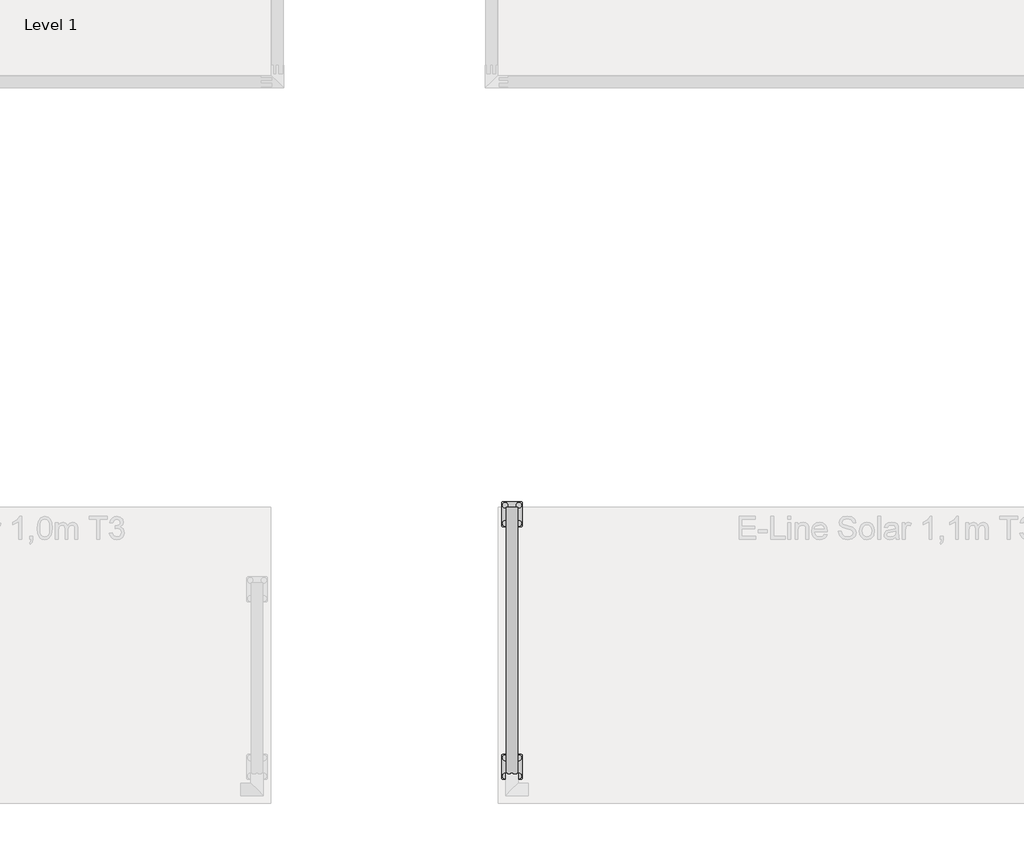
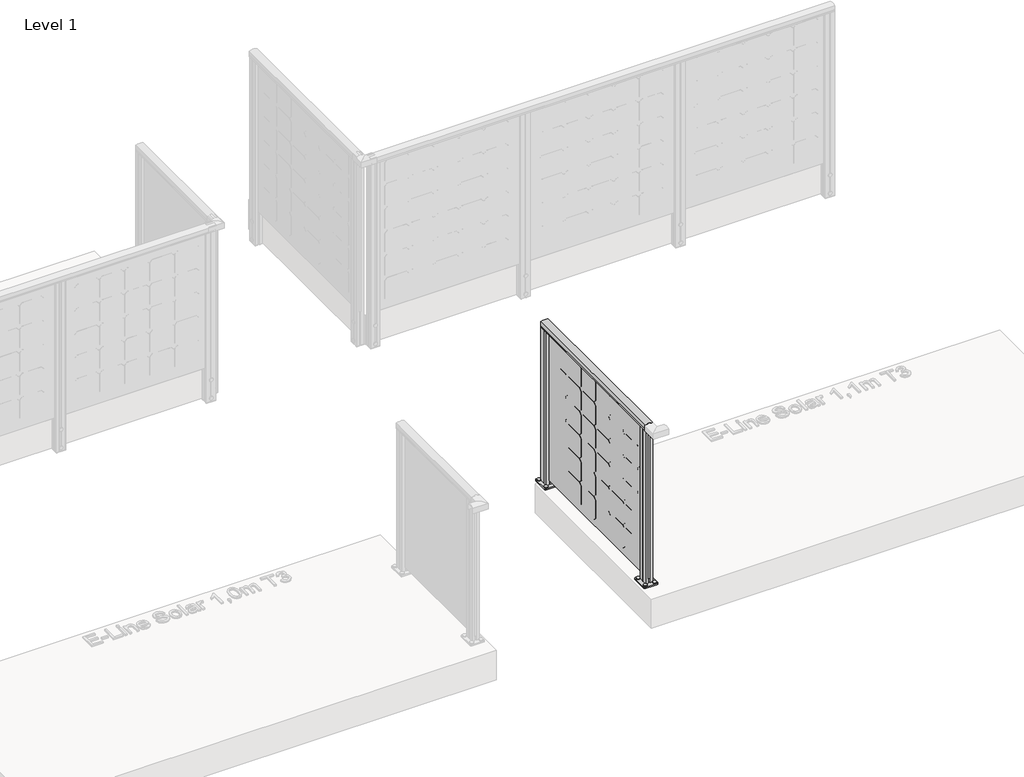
# One storey, part 24 of 66: 1 railing.
"""IFC4 building model written with IfcOpenShell, lengths in millimetres."""

from ifc_helpers import new_model, si_unit, point, frame, frame_2d, origin, origin_with_axes, place, context, project, spatial, polyline, circle_curve, trimmed, segment, composite_curve, outline, extrude, element, save

model = new_model("IFC4")

# Units and contexts
model_context = context("Model", 3, world=origin())
ifc_project = project(units=[si_unit("LENGTHUNIT", "METRE", prefix="MILLI")], contexts=[model_context])

# Site, building, storey
site = spatial("IfcSite", under=ifc_project)
building = spatial("IfcBuilding", under=site)
storey = spatial("IfcBuildingStorey", under=building, Name="Level 1", Elevation=0.0)

# Railing
placement = place(None, origin())
element("IfcRailing", 1, ObjectType="E-Line Solar 1,1m T3 6 columns of solar elements", at=placement, inside=storey, context=model_context, shape_type="SweptSolid", body=[
    extrude(outline(composite_curve([segment(trimmed(circle_curve(frame_2d((1042.6785502, 19357.2511266)), 57.3235687), [point((1094.1390059, 19382.5060869))], [point((1094.1342258, 19331.9864286))], False, "CARTESIAN"), True, "CONTINUOUS"), segment(polyline([(1094.1342258, 19331.9864286), (1067.0235023, 19331.9864286), (1066.4415706, 19332.5683604), (1065.8194895, 19331.9462793), (1057.2498847, 19331.9462793), (1057.2498847, 19333.7512322), (1080.4998829, 19333.7512322), (1080.4998829, 19380.7462783), (1057.2498847, 19380.7462783), (1057.2498847, 19382.5060869), (1065.9694895, 19382.5060869), (1066.5842725, 19381.8913039), (1067.1990555, 19382.5060869), (1094.1390059, 19382.5060869)]), True, "CONTINUOUS")], self_intersect=False)), frame((0.0, -2851.1184021, 0.0), z_axis=(0.0, 1.0, 0.0), x_axis=(0.0, 0.0, 1.0)), (0.0, 0.0, 1.0), 1170.0),
    extrude(outline(polyline([(19352.1463105, -1681.1184021), (19360.9063105, -1681.1184021), (19360.9063105, -2851.1184021), (19352.1463105, -2851.1184021), (19352.1463105, -1681.1184021)])), frame((0.0, 0.0, 40.0), z_axis=(0.0, 0.0, 1.0), x_axis=(1.0, 0.0, 0.0)), (0.0, 0.0, 1.0), 1040.0),
    extrude(outline(polyline([(0.0, 0.0), (16.036927, -16.036927), (16.036927, -139.963073), (0.0, -156.0), (-123.9261459, -156.0), (-139.963073, -139.963073), (-139.963073, -16.036927), (-123.9261459, 0.0), (0.0, 0.0)])), frame((19352.0263105, -1941.6184021, 1024.4156895), z_axis=(1.0, 5.7872079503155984e-12, 0.0), x_axis=(0.0, 0.0, 1.0)), (0.0, 0.0, 1.0), 1.0),
    extrude(outline(polyline([(0.0, 0.0), (16.036927, -16.036927), (16.036927, -139.963073), (0.0, -156.0), (-123.9261459, -156.0), (-139.963073, -139.963073), (-139.963073, -16.036927), (-123.9261459, 0.0), (0.0, 0.0)])), frame((19352.0263105, -2102.6184021, 1024.4156895), z_axis=(1.0, 5.7872079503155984e-12, 0.0), x_axis=(0.0, 0.0, 1.0)), (0.0, 0.0, 1.0), 1.0),
    extrude(outline(polyline([(0.0, 0.0), (16.036927, -16.036927), (16.036927, -139.963073), (0.0, -156.0), (-123.9261459, -156.0), (-139.963073, -139.963073), (-139.963073, -16.036927), (-123.9261459, 0.0), (0.0, 0.0)])), frame((19352.0263105, -2263.6184021, 1024.4156895), z_axis=(1.0, 5.7872079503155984e-12, 0.0), x_axis=(0.0, 0.0, 1.0)), (0.0, 0.0, 1.0), 1.0),
    extrude(outline(polyline([(0.0, 0.0), (16.036927, -16.036927), (16.036927, -139.963073), (0.0, -156.0), (-123.9261459, -156.0), (-139.963073, -139.963073), (-139.963073, -16.036927), (-123.9261459, 0.0), (0.0, 0.0)])), frame((19352.0263105, -2746.6184021, 1024.4156895), z_axis=(1.0, 5.7872079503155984e-12, 0.0), x_axis=(0.0, 0.0, 1.0)), (0.0, 0.0, 1.0), 1.0),
    extrude(outline(polyline([(0.0, 0.0), (16.036927, -16.036927), (16.036927, -139.963073), (0.0, -156.0), (-123.9261459, -156.0), (-139.963073, -139.963073), (-139.963073, -16.036927), (-123.9261459, 0.0), (0.0, 0.0)])), frame((19352.0263105, -2585.6184021, 1024.4156895), z_axis=(1.0, 5.7872079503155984e-12, 0.0), x_axis=(0.0, 0.0, 1.0)), (0.0, 0.0, 1.0), 1.0),
    extrude(outline(polyline([(0.0, 0.0), (16.036927, -16.036927), (16.036927, -139.963073), (0.0, -156.0), (-123.9261459, -156.0), (-139.963073, -139.963073), (-139.963073, -16.036927), (-123.9261459, 0.0), (0.0, 0.0)])), frame((19352.0263105, -2424.6184021, 1024.4156895), z_axis=(1.0, 5.7872079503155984e-12, 0.0), x_axis=(0.0, 0.0, 1.0)), (0.0, 0.0, 1.0), 1.0),
    extrude(outline(polyline([(0.0, 0.0), (16.036927, -16.036927), (16.036927, -139.963073), (0.0, -156.0), (-123.9261459, -156.0), (-139.963073, -139.963073), (-139.963073, -16.036927), (-123.9261459, 0.0), (0.0, 0.0)])), frame((19352.0263105, -1941.6184021, 863.4156895), z_axis=(1.0, 5.7872079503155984e-12, 0.0), x_axis=(0.0, 0.0, 1.0)), (0.0, 0.0, 1.0), 1.0),
    extrude(outline(polyline([(0.0, 0.0), (16.036927, -16.036927), (16.036927, -139.963073), (0.0, -156.0), (-123.9261459, -156.0), (-139.963073, -139.963073), (-139.963073, -16.036927), (-123.9261459, 0.0), (0.0, 0.0)])), frame((19352.0263105, -1941.6184021, 702.4156895), z_axis=(1.0, 5.7872079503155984e-12, 0.0), x_axis=(0.0, 0.0, 1.0)), (0.0, 0.0, 1.0), 1.0),
    extrude(outline(polyline([(0.0, 0.0), (16.036927, -16.036927), (16.036927, -139.963073), (0.0, -156.0), (-123.9261459, -156.0), (-139.963073, -139.963073), (-139.963073, -16.036927), (-123.9261459, 0.0), (0.0, 0.0)])), frame((19352.0263105, -1941.6184021, 541.4156895), z_axis=(1.0, 5.7872079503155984e-12, 0.0), x_axis=(0.0, 0.0, 1.0)), (0.0, 0.0, 1.0), 1.0),
    extrude(outline(polyline([(0.0, 0.0), (16.036927, -16.036927), (16.036927, -139.963073), (0.0, -156.0), (-123.9261459, -156.0), (-139.963073, -139.963073), (-139.963073, -16.036927), (-123.9261459, 0.0), (0.0, 0.0)])), frame((19352.0263105, -1941.6184021, 380.4156895), z_axis=(1.0, 5.7872079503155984e-12, 0.0), x_axis=(0.0, 0.0, 1.0)), (0.0, 0.0, 1.0), 1.0),
    extrude(outline(polyline([(0.0, 0.0), (16.036927, -16.036927), (16.036927, -139.963073), (0.0, -156.0), (-123.9261459, -156.0), (-139.963073, -139.963073), (-139.963073, -16.036927), (-123.9261459, 0.0), (0.0, 0.0)])), frame((19352.0263105, -1941.6184021, 219.4156895), z_axis=(1.0, 5.7872079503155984e-12, 0.0), x_axis=(0.0, 0.0, 1.0)), (0.0, 0.0, 1.0), 1.0),
    extrude(outline(polyline([(0.0, 0.0), (16.036927, -16.036927), (16.036927, -139.963073), (0.0, -156.0), (-123.9261459, -156.0), (-139.963073, -139.963073), (-139.963073, -16.036927), (-123.9261459, 0.0), (0.0, 0.0)])), frame((19352.0263105, -2102.6184021, 863.4156895), z_axis=(1.0, 5.7872079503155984e-12, 0.0), x_axis=(0.0, 0.0, 1.0)), (0.0, 0.0, 1.0), 1.0),
    extrude(outline(polyline([(0.0, 0.0), (16.036927, -16.036927), (16.036927, -139.963073), (0.0, -156.0), (-123.9261459, -156.0), (-139.963073, -139.963073), (-139.963073, -16.036927), (-123.9261459, 0.0), (0.0, 0.0)])), frame((19352.0263105, -2102.6184021, 702.4156895), z_axis=(1.0, 5.7872079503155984e-12, 0.0), x_axis=(0.0, 0.0, 1.0)), (0.0, 0.0, 1.0), 1.0),
    extrude(outline(polyline([(0.0, 0.0), (16.036927, -16.036927), (16.036927, -139.963073), (0.0, -156.0), (-123.9261459, -156.0), (-139.963073, -139.963073), (-139.963073, -16.036927), (-123.9261459, 0.0), (0.0, 0.0)])), frame((19352.0263105, -2102.6184021, 541.4156895), z_axis=(1.0, 5.7872079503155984e-12, 0.0), x_axis=(0.0, 0.0, 1.0)), (0.0, 0.0, 1.0), 1.0),
    extrude(outline(polyline([(0.0, 0.0), (16.036927, -16.036927), (16.036927, -139.963073), (0.0, -156.0), (-123.9261459, -156.0), (-139.963073, -139.963073), (-139.963073, -16.036927), (-123.9261459, 0.0), (0.0, 0.0)])), frame((19352.0263105, -2102.6184021, 380.4156895), z_axis=(1.0, 5.7872079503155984e-12, 0.0), x_axis=(0.0, 0.0, 1.0)), (0.0, 0.0, 1.0), 1.0),
    extrude(outline(polyline([(0.0, 0.0), (16.036927, -16.036927), (16.036927, -139.963073), (0.0, -156.0), (-123.9261459, -156.0), (-139.963073, -139.963073), (-139.963073, -16.036927), (-123.9261459, 0.0), (0.0, 0.0)])), frame((19352.0263105, -2102.6184021, 219.4156895), z_axis=(1.0, 5.7872079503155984e-12, 0.0), x_axis=(0.0, 0.0, 1.0)), (0.0, 0.0, 1.0), 1.0),
    extrude(outline(polyline([(0.0, 0.0), (16.036927, -16.036927), (16.036927, -139.963073), (0.0, -156.0), (-123.9261459, -156.0), (-139.963073, -139.963073), (-139.963073, -16.036927), (-123.9261459, 0.0), (0.0, 0.0)])), frame((19352.0263105, -2263.6184021, 863.4156895), z_axis=(1.0, 5.7872079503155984e-12, 0.0), x_axis=(0.0, 0.0, 1.0)), (0.0, 0.0, 1.0), 1.0),
    extrude(outline(polyline([(0.0, 0.0), (16.036927, -16.036927), (16.036927, -139.963073), (0.0, -156.0), (-123.9261459, -156.0), (-139.963073, -139.963073), (-139.963073, -16.036927), (-123.9261459, 0.0), (0.0, 0.0)])), frame((19352.0263105, -2263.6184021, 702.4156895), z_axis=(1.0, 5.7872079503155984e-12, 0.0), x_axis=(0.0, 0.0, 1.0)), (0.0, 0.0, 1.0), 1.0),
    extrude(outline(polyline([(0.0, 0.0), (16.036927, -16.036927), (16.036927, -139.963073), (0.0, -156.0), (-123.9261459, -156.0), (-139.963073, -139.963073), (-139.963073, -16.036927), (-123.9261459, 0.0), (0.0, 0.0)])), frame((19352.0263105, -2263.6184021, 541.4156895), z_axis=(1.0, 5.7872079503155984e-12, 0.0), x_axis=(0.0, 0.0, 1.0)), (0.0, 0.0, 1.0), 1.0),
    extrude(outline(polyline([(0.0, 0.0), (16.036927, -16.036927), (16.036927, -139.963073), (0.0, -156.0), (-123.9261459, -156.0), (-139.963073, -139.963073), (-139.963073, -16.036927), (-123.9261459, 0.0), (0.0, 0.0)])), frame((19352.0263105, -2263.6184021, 380.4156895), z_axis=(1.0, 5.7872079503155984e-12, 0.0), x_axis=(0.0, 0.0, 1.0)), (0.0, 0.0, 1.0), 1.0),
    extrude(outline(polyline([(0.0, 0.0), (16.036927, -16.036927), (16.036927, -139.963073), (0.0, -156.0), (-123.9261459, -156.0), (-139.963073, -139.963073), (-139.963073, -16.036927), (-123.9261459, 0.0), (0.0, 0.0)])), frame((19352.0263105, -2263.6184021, 219.4156895), z_axis=(1.0, 5.7872079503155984e-12, 0.0), x_axis=(0.0, 0.0, 1.0)), (0.0, 0.0, 1.0), 1.0),
    extrude(outline(polyline([(0.0, 0.0), (16.036927, -16.036927), (16.036927, -139.963073), (0.0, -156.0), (-123.9261459, -156.0), (-139.963073, -139.963073), (-139.963073, -16.036927), (-123.9261459, 0.0), (0.0, 0.0)])), frame((19352.0263105, -2746.6184021, 863.4156895), z_axis=(1.0, 5.7872079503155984e-12, 0.0), x_axis=(0.0, 0.0, 1.0)), (0.0, 0.0, 1.0), 1.0),
    extrude(outline(polyline([(0.0, 0.0), (16.036927, -16.036927), (16.036927, -139.963073), (0.0, -156.0), (-123.9261459, -156.0), (-139.963073, -139.963073), (-139.963073, -16.036927), (-123.9261459, 0.0), (0.0, 0.0)])), frame((19352.0263105, -2746.6184021, 702.4156895), z_axis=(1.0, 5.7872079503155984e-12, 0.0), x_axis=(0.0, 0.0, 1.0)), (0.0, 0.0, 1.0), 1.0),
    extrude(outline(polyline([(0.0, 0.0), (16.036927, -16.036927), (16.036927, -139.963073), (0.0, -156.0), (-123.9261459, -156.0), (-139.963073, -139.963073), (-139.963073, -16.036927), (-123.9261459, 0.0), (0.0, 0.0)])), frame((19352.0263105, -2746.6184021, 541.4156895), z_axis=(1.0, 5.7872079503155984e-12, 0.0), x_axis=(0.0, 0.0, 1.0)), (0.0, 0.0, 1.0), 1.0),
    extrude(outline(polyline([(0.0, 0.0), (16.036927, -16.036927), (16.036927, -139.963073), (0.0, -156.0), (-123.9261459, -156.0), (-139.963073, -139.963073), (-139.963073, -16.036927), (-123.9261459, 0.0), (0.0, 0.0)])), frame((19352.0263105, -2746.6184021, 380.4156895), z_axis=(1.0, 5.7872079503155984e-12, 0.0), x_axis=(0.0, 0.0, 1.0)), (0.0, 0.0, 1.0), 1.0),
    extrude(outline(polyline([(0.0, 0.0), (16.036927, -16.036927), (16.036927, -139.963073), (0.0, -156.0), (-123.9261459, -156.0), (-139.963073, -139.963073), (-139.963073, -16.036927), (-123.9261459, 0.0), (0.0, 0.0)])), frame((19352.0263105, -2746.6184021, 219.4156895), z_axis=(1.0, 5.7872079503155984e-12, 0.0), x_axis=(0.0, 0.0, 1.0)), (0.0, 0.0, 1.0), 1.0),
    extrude(outline(polyline([(0.0, 0.0), (16.036927, -16.036927), (16.036927, -139.963073), (0.0, -156.0), (-123.9261459, -156.0), (-139.963073, -139.963073), (-139.963073, -16.036927), (-123.9261459, 0.0), (0.0, 0.0)])), frame((19352.0263105, -2585.6184021, 863.4156895), z_axis=(1.0, 5.7872079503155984e-12, 0.0), x_axis=(0.0, 0.0, 1.0)), (0.0, 0.0, 1.0), 1.0),
    extrude(outline(polyline([(0.0, 0.0), (16.036927, -16.036927), (16.036927, -139.963073), (0.0, -156.0), (-123.9261459, -156.0), (-139.963073, -139.963073), (-139.963073, -16.036927), (-123.9261459, 0.0), (0.0, 0.0)])), frame((19352.0263105, -2585.6184021, 702.4156895), z_axis=(1.0, 5.7872079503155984e-12, 0.0), x_axis=(0.0, 0.0, 1.0)), (0.0, 0.0, 1.0), 1.0),
    extrude(outline(polyline([(0.0, 0.0), (16.036927, -16.036927), (16.036927, -139.963073), (0.0, -156.0), (-123.9261459, -156.0), (-139.963073, -139.963073), (-139.963073, -16.036927), (-123.9261459, 0.0), (0.0, 0.0)])), frame((19352.0263105, -2585.6184021, 541.4156895), z_axis=(1.0, 5.7872079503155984e-12, 0.0), x_axis=(0.0, 0.0, 1.0)), (0.0, 0.0, 1.0), 1.0),
    extrude(outline(polyline([(0.0, 0.0), (16.036927, -16.036927), (16.036927, -139.963073), (0.0, -156.0), (-123.9261459, -156.0), (-139.963073, -139.963073), (-139.963073, -16.036927), (-123.9261459, 0.0), (0.0, 0.0)])), frame((19352.0263105, -2585.6184021, 380.4156895), z_axis=(1.0, 5.7872079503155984e-12, 0.0), x_axis=(0.0, 0.0, 1.0)), (0.0, 0.0, 1.0), 1.0),
    extrude(outline(polyline([(0.0, 0.0), (16.036927, -16.036927), (16.036927, -139.963073), (0.0, -156.0), (-123.9261459, -156.0), (-139.963073, -139.963073), (-139.963073, -16.036927), (-123.9261459, 0.0), (0.0, 0.0)])), frame((19352.0263105, -2585.6184021, 219.4156895), z_axis=(1.0, 5.7872079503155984e-12, 0.0), x_axis=(0.0, 0.0, 1.0)), (0.0, 0.0, 1.0), 1.0),
    extrude(outline(polyline([(0.0, 0.0), (16.036927, -16.036927), (16.036927, -139.963073), (0.0, -156.0), (-123.9261459, -156.0), (-139.963073, -139.963073), (-139.963073, -16.036927), (-123.9261459, 0.0), (0.0, 0.0)])), frame((19352.0263105, -2424.6184021, 863.4156895), z_axis=(1.0, 5.7872079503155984e-12, 0.0), x_axis=(0.0, 0.0, 1.0)), (0.0, 0.0, 1.0), 1.0),
    extrude(outline(polyline([(0.0, 0.0), (16.036927, -16.036927), (16.036927, -139.963073), (0.0, -156.0), (-123.9261459, -156.0), (-139.963073, -139.963073), (-139.963073, -16.036927), (-123.9261459, 0.0), (0.0, 0.0)])), frame((19352.0263105, -2424.6184021, 702.4156895), z_axis=(1.0, 5.7872079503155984e-12, 0.0), x_axis=(0.0, 0.0, 1.0)), (0.0, 0.0, 1.0), 1.0),
    extrude(outline(polyline([(0.0, 0.0), (16.036927, -16.036927), (16.036927, -139.963073), (0.0, -156.0), (-123.9261459, -156.0), (-139.963073, -139.963073), (-139.963073, -16.036927), (-123.9261459, 0.0), (0.0, 0.0)])), frame((19352.0263105, -2424.6184021, 541.4156895), z_axis=(1.0, 5.7872079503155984e-12, 0.0), x_axis=(0.0, 0.0, 1.0)), (0.0, 0.0, 1.0), 1.0),
    extrude(outline(polyline([(0.0, 0.0), (16.036927, -16.036927), (16.036927, -139.963073), (0.0, -156.0), (-123.9261459, -156.0), (-139.963073, -139.963073), (-139.963073, -16.036927), (-123.9261459, 0.0), (0.0, 0.0)])), frame((19352.0263105, -2424.6184021, 380.4156895), z_axis=(1.0, 5.7872079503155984e-12, 0.0), x_axis=(0.0, 0.0, 1.0)), (0.0, 0.0, 1.0), 1.0),
    extrude(outline(polyline([(0.0, 0.0), (16.036927, -16.036927), (16.036927, -139.963073), (0.0, -156.0), (-123.9261459, -156.0), (-139.963073, -139.963073), (-139.963073, -16.036927), (-123.9261459, 0.0), (0.0, 0.0)])), frame((19352.0263105, -2424.6184021, 219.4156895), z_axis=(1.0, 5.7872079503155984e-12, 0.0), x_axis=(0.0, 0.0, 1.0)), (0.0, 0.0, 1.0), 1.0),
    extrude(outline(composite_curve([segment(trimmed(circle_curve(frame_2d((19326.5263105, -2781.1184021)), 11.9621755), [point((19314.564135, -2781.1184021))], [point((19338.488486, -2781.1184021))], False, "CARTESIAN"), True, "CONTINUOUS"), segment(trimmed(circle_curve(frame_2d((19326.5263105, -2781.1184021)), 11.9621755), [point((19338.488486, -2781.1184021))], [point((19314.564135, -2781.1184021))], False, "CARTESIAN"), True, "CONTINUOUS")], self_intersect=False)), frame((0.0, 0.0, 10.0), z_axis=(0.0, 0.0, 1.0), x_axis=(1.0, 0.0, 0.0)), (0.0, 0.0, 1.0), 5.0),
    extrude(outline(composite_curve([segment(trimmed(circle_curve(frame_2d((19386.5263105, -2781.1184021)), 11.9621755), [point((19374.564135, -2781.1184021))], [point((19398.488486, -2781.1184021))], False, "CARTESIAN"), True, "CONTINUOUS"), segment(trimmed(circle_curve(frame_2d((19386.5263105, -2781.1184021)), 11.9621755), [point((19398.488486, -2781.1184021))], [point((19374.564135, -2781.1184021))], False, "CARTESIAN"), True, "CONTINUOUS")], self_intersect=False)), frame((0.0, 0.0, 10.0), z_axis=(0.0, 0.0, 1.0), x_axis=(1.0, 0.0, 0.0)), (0.0, 0.0, 1.0), 5.0),
    extrude(outline(composite_curve([segment(trimmed(circle_curve(frame_2d((19326.5263105, -2861.1184021)), 11.9621755), [point((19314.564135, -2861.1184021))], [point((19338.488486, -2861.1184021))], False, "CARTESIAN"), True, "CONTINUOUS"), segment(trimmed(circle_curve(frame_2d((19326.5263105, -2861.1184021)), 11.9621755), [point((19338.488486, -2861.1184021))], [point((19314.564135, -2861.1184021))], False, "CARTESIAN"), True, "CONTINUOUS")], self_intersect=False)), frame((0.0, 0.0, 10.0), z_axis=(0.0, 0.0, 1.0), x_axis=(1.0, 0.0, 0.0)), (0.0, 0.0, 1.0), 5.0),
    extrude(outline(composite_curve([segment(trimmed(circle_curve(frame_2d((19386.5263105, -2861.1184021)), 11.9621755), [point((19374.564135, -2861.1184021))], [point((19398.488486, -2861.1184021))], False, "CARTESIAN"), True, "CONTINUOUS"), segment(trimmed(circle_curve(frame_2d((19386.5263105, -2861.1184021)), 11.9621755), [point((19398.488486, -2861.1184021))], [point((19374.564135, -2861.1184021))], False, "CARTESIAN"), True, "CONTINUOUS")], self_intersect=False)), frame((0.0, 0.0, 10.0), z_axis=(0.0, 0.0, 1.0), x_axis=(1.0, 0.0, 0.0)), (0.0, 0.0, 1.0), 5.0),
    extrude(outline(composite_curve([segment(trimmed(circle_curve(frame_2d((19396.5263105, -2771.1184021)), 5.0), [point((19396.5263105, -2766.1184021))], [point((19401.5263105, -2771.1184021))], False, "CARTESIAN"), True, "CONTINUOUS"), segment(polyline([(19401.5263105, -2771.1184021), (19401.5263105, -2871.1184021)]), True, "CONTINUOUS"), segment(trimmed(circle_curve(frame_2d((19396.5263105, -2871.1184021)), 5.0), [point((19401.5263105, -2871.1184021))], [point((19396.5263105, -2876.1184021))], False, "CARTESIAN"), True, "CONTINUOUS"), segment(polyline([(19396.5263105, -2876.1184021), (19316.5263105, -2876.1184021)]), True, "CONTINUOUS"), segment(trimmed(circle_curve(frame_2d((19316.5263105, -2871.1184021)), 5.0), [point((19316.5263105, -2876.1184021))], [point((19311.5263105, -2871.1184021))], False, "CARTESIAN"), True, "CONTINUOUS"), segment(polyline([(19311.5263105, -2871.1184021), (19311.5263105, -2771.1184021)]), True, "CONTINUOUS"), segment(trimmed(circle_curve(frame_2d((19316.5263105, -2771.1184021)), 5.0), [point((19311.5263105, -2771.1184021))], [point((19316.5263105, -2766.1184021))], False, "CARTESIAN"), True, "CONTINUOUS"), segment(polyline([(19316.5263105, -2766.1184021), (19396.5263105, -2766.1184021)]), True, "CONTINUOUS")], self_intersect=False), holes=[composite_curve([segment(trimmed(circle_curve(frame_2d((19386.5263105, -2781.1184021)), 6.25), [point((19380.2763105, -2781.1184021))], [point((19392.7763105, -2781.1184021))], True, "CARTESIAN"), True, "CONTINUOUS"), segment(trimmed(circle_curve(frame_2d((19386.5263105, -2781.1184021)), 6.25), [point((19392.7763105, -2781.1184021))], [point((19380.2763105, -2781.1184021))], True, "CARTESIAN"), True, "CONTINUOUS")], self_intersect=False), composite_curve([segment(trimmed(circle_curve(frame_2d((19326.5263105, -2781.1184021)), 6.25), [point((19320.2763105, -2781.1184021))], [point((19332.7763105, -2781.1184021))], True, "CARTESIAN"), True, "CONTINUOUS"), segment(trimmed(circle_curve(frame_2d((19326.5263105, -2781.1184021)), 6.25), [point((19332.7763105, -2781.1184021))], [point((19320.2763105, -2781.1184021))], True, "CARTESIAN"), True, "CONTINUOUS")], self_intersect=False), composite_curve([segment(trimmed(circle_curve(frame_2d((19326.5263105, -2861.1184021)), 6.25), [point((19320.2763105, -2861.1184021))], [point((19332.7763105, -2861.1184021))], True, "CARTESIAN"), True, "CONTINUOUS"), segment(trimmed(circle_curve(frame_2d((19326.5263105, -2861.1184021)), 6.25), [point((19332.7763105, -2861.1184021))], [point((19320.2763105, -2861.1184021))], True, "CARTESIAN"), True, "CONTINUOUS")], self_intersect=False), composite_curve([segment(trimmed(circle_curve(frame_2d((19386.5263105, -2861.1184021)), 6.25), [point((19380.2763105, -2861.1184021))], [point((19392.7763105, -2861.1184021))], True, "CARTESIAN"), True, "CONTINUOUS"), segment(trimmed(circle_curve(frame_2d((19386.5263105, -2861.1184021)), 6.25), [point((19392.7763105, -2861.1184021))], [point((19380.2763105, -2861.1184021))], True, "CARTESIAN"), True, "CONTINUOUS")], self_intersect=False)]), origin_with_axes(), (0.0, 0.0, 1.0), 10.0),
    extrude(outline(polyline([(19352.1804485, -2851.116809), (19334.0354487, -2851.1194812), (19334.0311828, -2822.1524942), (19335.0593241, -2821.12405), (19334.0709345, -2820.1359515), (19334.0666613, -2791.119476), (19352.1716124, -2791.1168097), (19352.1741896, -2808.6168095), (19360.9341895, -2808.6155194), (19360.9316123, -2791.1155196), (19379.0266121, -2791.1128548), (19379.030878, -2820.0798417), (19378.1125457, -2821.1177096), (19378.9909678, -2821.995873), (19378.9952559, -2851.11286), (19360.9404484, -2851.1155189), (19360.9378712, -2833.6155191), (19352.1778713, -2833.6168092), (19352.1804485, -2851.116809)]), holes=[polyline([(19377.0323262, -2812.3191871), (19336.0297347, -2812.3191871), (19336.0297347, -2829.9131488), (19377.0323262, -2829.9131488), (19377.0323262, -2812.3191871)]), polyline([(19350.17444, -2793.1191873), (19336.0269071, -2793.1191873), (19336.0269071, -2810.317104), (19350.17444, -2810.317104), (19350.17444, -2793.1191873)]), polyline([(19377.0323262, -2793.115225), (19362.9319068, -2793.115225), (19362.9319068, -2810.3131487), (19377.0323262, -2810.3131487), (19377.0323262, -2793.115225)]), polyline([(19350.180154, -2831.9191868), (19336.0326211, -2831.9191868), (19336.0326211, -2849.1171035), (19350.180154, -2849.1171035), (19350.180154, -2831.9191868)]), polyline([(19377.0851537, -2831.9152246), (19362.9376209, -2831.9152246), (19362.9376209, -2849.1131413), (19377.0851537, -2849.1131413), (19377.0851537, -2831.9152246)])]), frame((0.0, 0.0, 10.0), z_axis=(0.0, 0.0, 1.0), x_axis=(1.0, 0.0, 0.0)), (0.0, 0.0, 1.0), 1071.0),
    extrude(outline(composite_curve([segment(trimmed(circle_curve(frame_2d((19326.5263105, -1671.1184021)), 11.9621755), [point((19314.564135, -1671.1184021))], [point((19338.488486, -1671.1184021))], False, "CARTESIAN"), True, "CONTINUOUS"), segment(trimmed(circle_curve(frame_2d((19326.5263105, -1671.1184021)), 11.9621755), [point((19338.488486, -1671.1184021))], [point((19314.564135, -1671.1184021))], False, "CARTESIAN"), True, "CONTINUOUS")], self_intersect=False)), frame((0.0, 0.0, 10.0), z_axis=(0.0, 0.0, 1.0), x_axis=(1.0, 0.0, 0.0)), (0.0, 0.0, 1.0), 5.0),
    extrude(outline(composite_curve([segment(trimmed(circle_curve(frame_2d((19386.5263105, -1671.1184021)), 11.9621755), [point((19374.564135, -1671.1184021))], [point((19398.488486, -1671.1184021))], False, "CARTESIAN"), True, "CONTINUOUS"), segment(trimmed(circle_curve(frame_2d((19386.5263105, -1671.1184021)), 11.9621755), [point((19398.488486, -1671.1184021))], [point((19374.564135, -1671.1184021))], False, "CARTESIAN"), True, "CONTINUOUS")], self_intersect=False)), frame((0.0, 0.0, 10.0), z_axis=(0.0, 0.0, 1.0), x_axis=(1.0, 0.0, 0.0)), (0.0, 0.0, 1.0), 5.0),
    extrude(outline(composite_curve([segment(trimmed(circle_curve(frame_2d((19326.5263105, -1751.1184021)), 11.9621755), [point((19314.564135, -1751.1184021))], [point((19338.488486, -1751.1184021))], False, "CARTESIAN"), True, "CONTINUOUS"), segment(trimmed(circle_curve(frame_2d((19326.5263105, -1751.1184021)), 11.9621755), [point((19338.488486, -1751.1184021))], [point((19314.564135, -1751.1184021))], False, "CARTESIAN"), True, "CONTINUOUS")], self_intersect=False)), frame((0.0, 0.0, 10.0), z_axis=(0.0, 0.0, 1.0), x_axis=(1.0, 0.0, 0.0)), (0.0, 0.0, 1.0), 5.0),
    extrude(outline(composite_curve([segment(trimmed(circle_curve(frame_2d((19386.5263105, -1751.1184021)), 11.9621755), [point((19374.564135, -1751.1184021))], [point((19398.488486, -1751.1184021))], False, "CARTESIAN"), True, "CONTINUOUS"), segment(trimmed(circle_curve(frame_2d((19386.5263105, -1751.1184021)), 11.9621755), [point((19398.488486, -1751.1184021))], [point((19374.564135, -1751.1184021))], False, "CARTESIAN"), True, "CONTINUOUS")], self_intersect=False)), frame((0.0, 0.0, 10.0), z_axis=(0.0, 0.0, 1.0), x_axis=(1.0, 0.0, 0.0)), (0.0, 0.0, 1.0), 5.0),
    extrude(outline(composite_curve([segment(trimmed(circle_curve(frame_2d((19396.5263105, -1661.1184021)), 5.0), [point((19396.5263105, -1656.1184021))], [point((19401.5263105, -1661.1184021))], False, "CARTESIAN"), True, "CONTINUOUS"), segment(polyline([(19401.5263105, -1661.1184021), (19401.5263105, -1761.1184021)]), True, "CONTINUOUS"), segment(trimmed(circle_curve(frame_2d((19396.5263105, -1761.1184021)), 5.0), [point((19401.5263105, -1761.1184021))], [point((19396.5263105, -1766.1184021))], False, "CARTESIAN"), True, "CONTINUOUS"), segment(polyline([(19396.5263105, -1766.1184021), (19316.5263105, -1766.1184021)]), True, "CONTINUOUS"), segment(trimmed(circle_curve(frame_2d((19316.5263105, -1761.1184021)), 5.0), [point((19316.5263105, -1766.1184021))], [point((19311.5263105, -1761.1184021))], False, "CARTESIAN"), True, "CONTINUOUS"), segment(polyline([(19311.5263105, -1761.1184021), (19311.5263105, -1661.1184021)]), True, "CONTINUOUS"), segment(trimmed(circle_curve(frame_2d((19316.5263105, -1661.1184021)), 5.0), [point((19311.5263105, -1661.1184021))], [point((19316.5263105, -1656.1184021))], False, "CARTESIAN"), True, "CONTINUOUS"), segment(polyline([(19316.5263105, -1656.1184021), (19396.5263105, -1656.1184021)]), True, "CONTINUOUS")], self_intersect=False), holes=[composite_curve([segment(trimmed(circle_curve(frame_2d((19386.5263105, -1671.1184021)), 6.25), [point((19380.2763105, -1671.1184021))], [point((19392.7763105, -1671.1184021))], True, "CARTESIAN"), True, "CONTINUOUS"), segment(trimmed(circle_curve(frame_2d((19386.5263105, -1671.1184021)), 6.25), [point((19392.7763105, -1671.1184021))], [point((19380.2763105, -1671.1184021))], True, "CARTESIAN"), True, "CONTINUOUS")], self_intersect=False), composite_curve([segment(trimmed(circle_curve(frame_2d((19326.5263105, -1671.1184021)), 6.25), [point((19320.2763105, -1671.1184021))], [point((19332.7763105, -1671.1184021))], True, "CARTESIAN"), True, "CONTINUOUS"), segment(trimmed(circle_curve(frame_2d((19326.5263105, -1671.1184021)), 6.25), [point((19332.7763105, -1671.1184021))], [point((19320.2763105, -1671.1184021))], True, "CARTESIAN"), True, "CONTINUOUS")], self_intersect=False), composite_curve([segment(trimmed(circle_curve(frame_2d((19326.5263105, -1751.1184021)), 6.25), [point((19320.2763105, -1751.1184021))], [point((19332.7763105, -1751.1184021))], True, "CARTESIAN"), True, "CONTINUOUS"), segment(trimmed(circle_curve(frame_2d((19326.5263105, -1751.1184021)), 6.25), [point((19332.7763105, -1751.1184021))], [point((19320.2763105, -1751.1184021))], True, "CARTESIAN"), True, "CONTINUOUS")], self_intersect=False), composite_curve([segment(trimmed(circle_curve(frame_2d((19386.5263105, -1751.1184021)), 6.25), [point((19380.2763105, -1751.1184021))], [point((19392.7763105, -1751.1184021))], True, "CARTESIAN"), True, "CONTINUOUS"), segment(trimmed(circle_curve(frame_2d((19386.5263105, -1751.1184021)), 6.25), [point((19392.7763105, -1751.1184021))], [point((19380.2763105, -1751.1184021))], True, "CARTESIAN"), True, "CONTINUOUS")], self_intersect=False)]), origin_with_axes(), (0.0, 0.0, 1.0), 10.0),
    extrude(outline(polyline([(19352.1804485, -1741.116809), (19334.0354487, -1741.1194812), (19334.0311828, -1712.1524942), (19335.0593241, -1711.12405), (19334.0709345, -1710.1359515), (19334.0666613, -1681.119476), (19352.1716124, -1681.1168097), (19352.1741896, -1698.6168095), (19360.9341895, -1698.6155194), (19360.9316123, -1681.1155196), (19379.0266121, -1681.1128548), (19379.030878, -1710.0798417), (19378.1125457, -1711.1177096), (19378.9909678, -1711.995873), (19378.9952559, -1741.11286), (19360.9404484, -1741.1155189), (19360.9378712, -1723.6155191), (19352.1778713, -1723.6168092), (19352.1804485, -1741.116809)]), holes=[polyline([(19377.0323262, -1702.3191871), (19336.0297347, -1702.3191871), (19336.0297347, -1719.9131488), (19377.0323262, -1719.9131488), (19377.0323262, -1702.3191871)]), polyline([(19350.17444, -1683.1191873), (19336.0269071, -1683.1191873), (19336.0269071, -1700.317104), (19350.17444, -1700.317104), (19350.17444, -1683.1191873)]), polyline([(19377.0323262, -1683.115225), (19362.9319068, -1683.115225), (19362.9319068, -1700.3131487), (19377.0323262, -1700.3131487), (19377.0323262, -1683.115225)]), polyline([(19350.180154, -1721.9191868), (19336.0326211, -1721.9191868), (19336.0326211, -1739.1171035), (19350.180154, -1739.1171035), (19350.180154, -1721.9191868)]), polyline([(19377.0851537, -1721.9152246), (19362.9376209, -1721.9152246), (19362.9376209, -1739.1131413), (19377.0851537, -1739.1131413), (19377.0851537, -1721.9152246)])]), frame((0.0, 0.0, 10.0), z_axis=(0.0, 0.0, 1.0), x_axis=(1.0, 0.0, 0.0)), (0.0, 0.0, 1.0), 1071.0),
])

save(model, "model.ifc")
